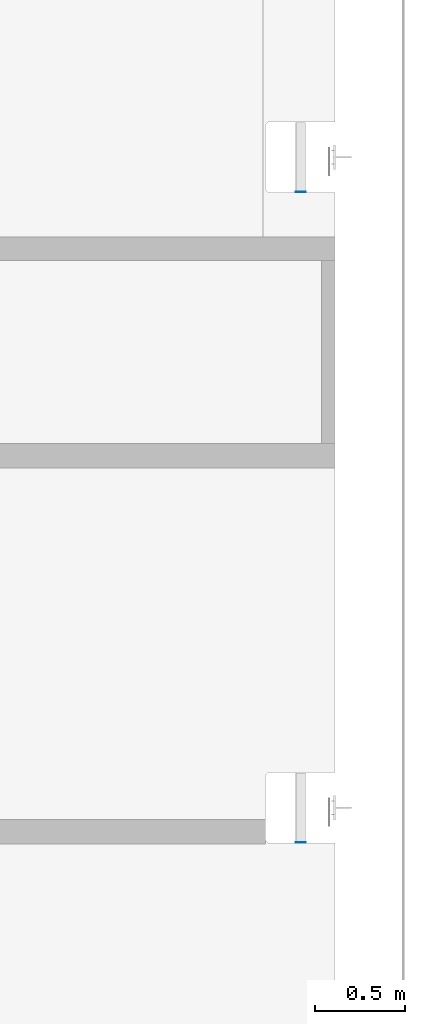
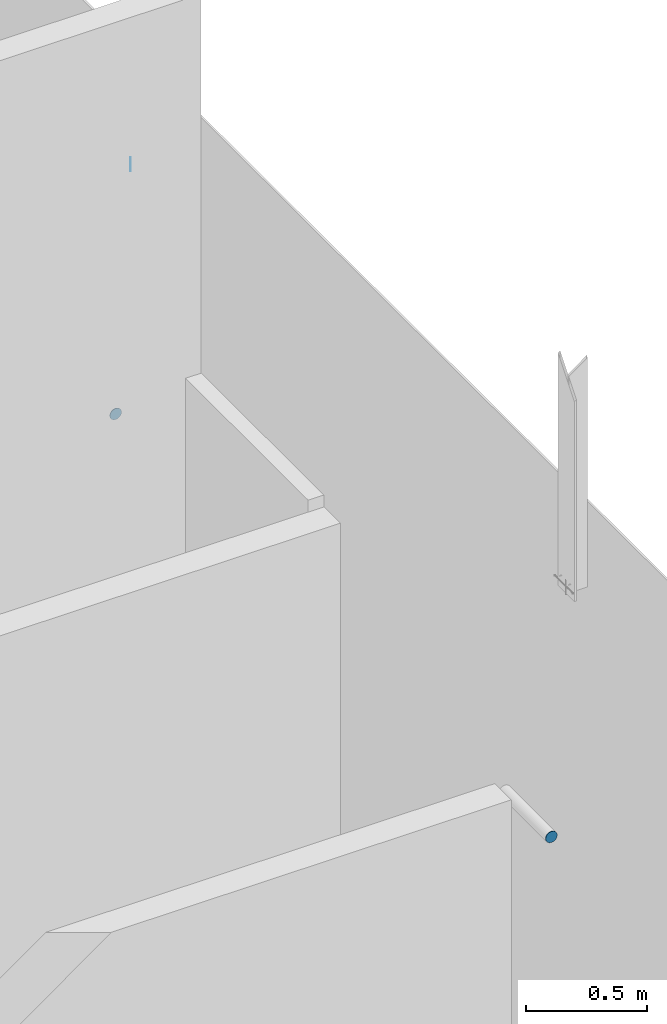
# One storey, part 92 of 186: 3 beams.
"""IFC4X3_ADD2 building model written with IfcOpenShell, lengths in millimetres."""

from ifc_helpers import new_model, si_unit, direction, frame, frame_2d, origin_with_axes, place, context, subcontext, project, spatial, indexed_curve, rectangle, outline, extrude, material, element, save


model = new_model("IFC4X3_ADD2")

# Units and contexts
model_context = context("Model", 3, precision=1e-05, world=origin_with_axes(), true_north=direction((0.0, 1.0)))
body_context = subcontext(model_context, "Body", "Model", "MODEL_VIEW")
ifc_project = project(units=[si_unit("LENGTHUNIT", "METRE", prefix="MILLI"), si_unit("AREAUNIT", "SQUARE_METRE"), si_unit("VOLUMEUNIT", "CUBIC_METRE"), si_unit("PLANEANGLEUNIT", "RADIAN"), si_unit("TIMEUNIT", "SECOND"), si_unit("MASSUNIT", "GRAM")], contexts=[model_context])

# Site, building, storey
site_placement = place(None, origin_with_axes())
site = spatial("IfcSite", under=ifc_project, at=site_placement, Name="Site", CompositionType="ELEMENT")
building_placement = place(site_placement, origin_with_axes())
building = spatial("IfcBuilding", under=site, at=building_placement, Name="IFC Building Story")
storey_placement = place(building_placement, frame((0.0, 0.0, 4370.0), z_axis=(0.0, 0.0, 1.0), x_axis=(1.0, 0.0, 0.0)))
storey = spatial("IfcBuildingStorey", under=building, at=storey_placement, Name="ETAGE 10 (1)", Elevation=4370.0)

# Beams
ifc_material_1 = material(Name="STEEL/Accessory_invisible")
beam_placement = place(storey_placement, frame((48494.7886362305, 12320.0006109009, 3772.0), z_axis=(-1.0, 0.0, 0.0), x_axis=(0.0, 0.0, 1.0)))
element("IfcBeam", 1, at=beam_placement, inside=storey, material=ifc_material_1, Name="ZW1", ObjectType="1*1 10", context=body_context, shape_type="SweptSolid", body=[
    extrude(rectangle(XDim=70.0000000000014, YDim=1.0, at=frame_2d((0.0, 5.95523630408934e-12), x_axis=(1.0, 0.0))), origin_with_axes(), (0.0, 0.0, 1.0), 1.0),
])
ifc_material_2 = material(Name="STEEL/Accessory 22919")
for number, where, z_axis, x_axis, name in (
    (2, (48311.18863623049, 8518.000610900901, 2740.793999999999), (0.0, -1.0, 0.0), (-0.1950903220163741, 0.0, 0.9807852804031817), "TA4"),
    (3, (48311.18863623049, 12128.0006109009, 2690.801999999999), (0.0, -1.0, 0.0), (-0.1950903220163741, 0.0, 0.9807852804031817), "TA4"),
):
    element("IfcBeam", number, at=place(storey_placement, frame(where, z_axis=z_axis, x_axis=x_axis)), inside=storey, material=ifc_material_2, Name=name, ObjectType="D56", context=body_context, shape_type="SweptSolid", body=[
        extrude(outline(indexed_curve([(23.28114914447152, 15.55596652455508), (27.46198785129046, 5.462529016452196), (27.46198785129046, -5.462529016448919), (23.28114914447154, -15.55596652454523), (15.55596652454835, -23.28114914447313), (5.462529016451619, -27.46198785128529), (-5.462529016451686, -27.46198785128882), (-15.55596652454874, -23.28114914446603), (-23.2811491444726, -15.55596652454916), (-27.46198785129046, -5.462529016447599), (-27.46198785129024, 5.462529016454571), (-23.28114914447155, 15.55596652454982), (-15.55596652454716, 23.28114914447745), (-5.462529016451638, 27.46198785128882), (5.462529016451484, 27.46198785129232), (15.55596652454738, 23.28114914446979), (23.28114914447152, 15.55596652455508)])), origin_with_axes(), (0.0, 0.0, 1.0), 3.000000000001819),
    ])

save(model, "model.ifc")
